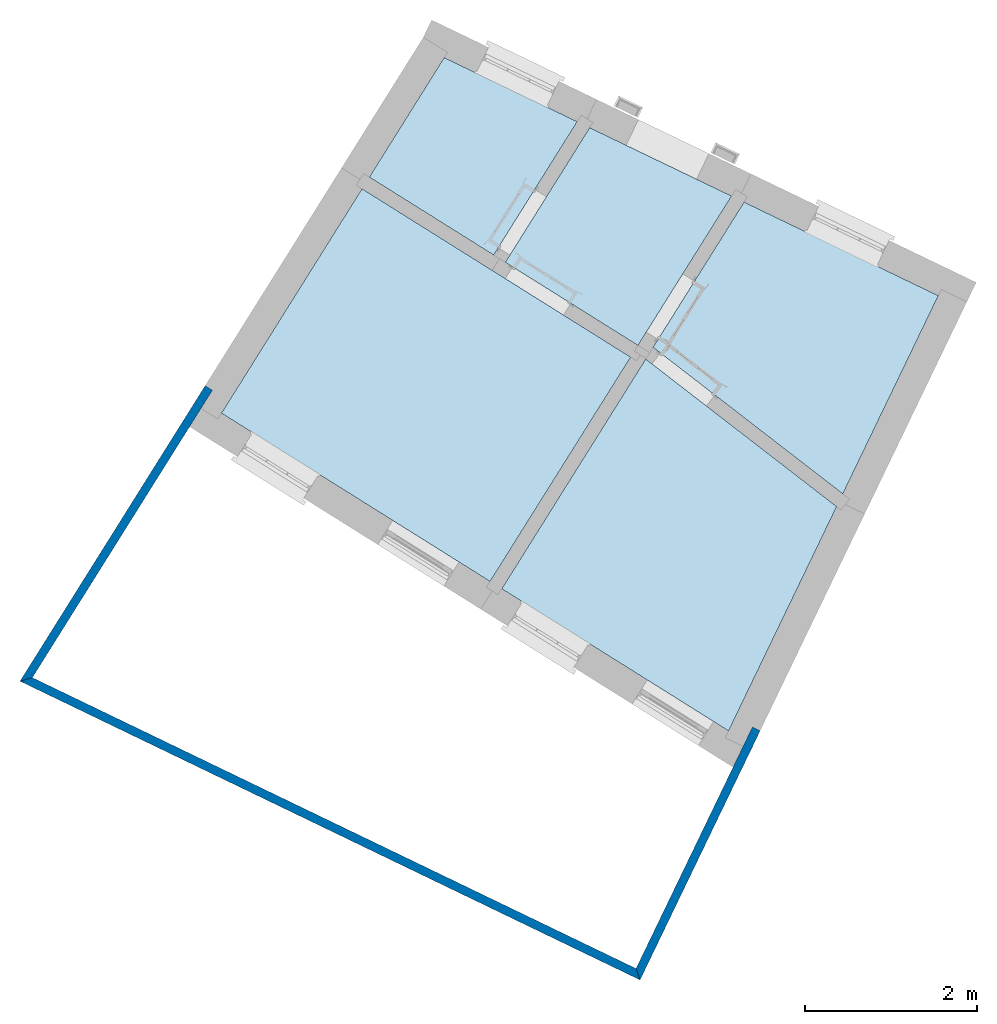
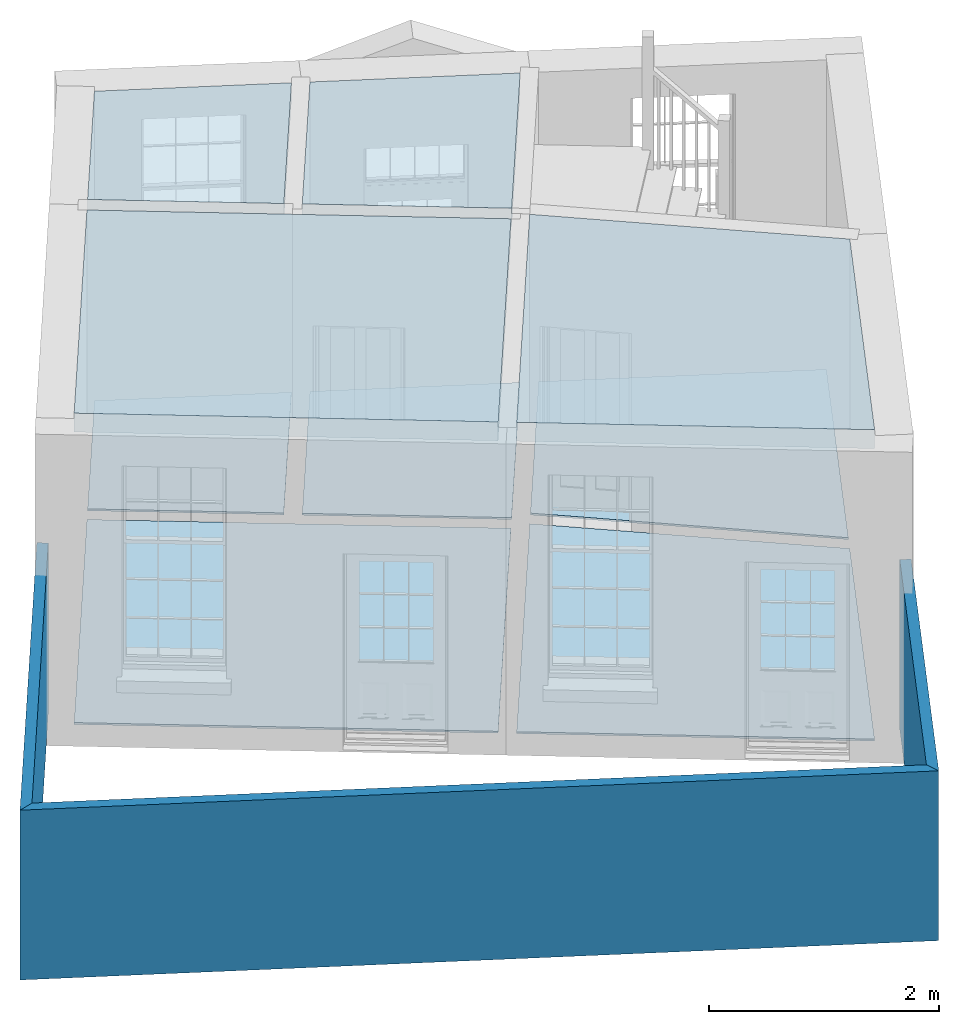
# One storey, part 1 of 6: 9 slabs, 3 walls.
"""IFC4 building model written with IfcOpenShell, lengths in metres."""

from ifc_helpers import new_model, si_unit, frame, origin_with_axes, place, context, subcontext, project, spatial, polyline, outline, extrude, material, layer, layer_set, layer_usage, type_object, element, save


model = new_model("IFC4")

# Units and contexts
model_context = context("Model", 3, world=origin_with_axes())
body_context = subcontext(model_context, "Body", "Model", "MODEL_VIEW")
ifc_project = project(units=[si_unit("PLANEANGLEUNIT", "RADIAN"), si_unit("MASSUNIT", "GRAM", prefix="KILO"), si_unit("FORCEUNIT", "NEWTON", prefix="KILO"), si_unit("LENGTHUNIT", "METRE"), si_unit("AREAUNIT", "SQUARE_METRE"), si_unit("VOLUMEUNIT", "CUBIC_METRE")], contexts=[model_context, model_context])

# Sites, building, storey
site_1_placement = place(None, origin_with_axes())
site_1 = spatial("IfcSite", under=ifc_project, at=site_1_placement, Name="Tamar")
site_2_placement = place(site_1_placement, origin_with_axes())
site_2 = spatial("IfcSite", under=site_1, at=site_2_placement, Name="Site plot-0", CompositionType="ELEMENT")
building_placement = place(None, origin_with_axes())
building = spatial("IfcBuilding", under=site_2, at=building_placement, Name="Building plot-0", CompositionType="ELEMENT")
storey_placement = place(None, frame((0.0, 0.0, 26.0), z_axis=(0.0, 0.0, 1.0), x_axis=(1.0, 0.0, 0.0)))
storey = spatial("IfcBuildingStorey", under=building, at=storey_placement, Name="plot-0 0", CompositionType="ELEMENT", Elevation=26.0)

# Slabs
slab_1_placement = place(storey_placement, frame((219.03369923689, 301.130418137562, 0.0)))
element("IfcSlab", 1, at=slab_1_placement, inside=storey, Name="My Slab", ObjectType="Slab", PredefinedType="FLOOR", context=body_context, shape_type="SweptSolid", body=[
    extrude(outline(polyline([(0.0, 0.0), (-1.05769112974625, -1.68811037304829), (1.14765961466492, -3.39175132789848), (2.2578113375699, -1.08802607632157), (0.0, 0.0)])), origin_with_axes(), (0.0, 0.0, 1.0), 0.02),
])
slab_2_placement = place(storey_placement, frame((218.888675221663, 301.20030436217, 3.1)))
element("IfcSlab", 2, at=slab_2_placement, inside=storey, Name="My Slab", ObjectType="Slab", PredefinedType="FLOOR", context=body_context, shape_type="SweptSolid", body=[
    extrude(outline(polyline([(0.0, 0.0), (-1.6492313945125, 0.794754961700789), (-2.62981481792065, -0.770288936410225), (-1.08792520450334, -1.7363649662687), (0.0, 0.0)])), origin_with_axes(), (0.0, 0.0, 1.0), 0.2),
])
slab_3_placement = place(storey_placement, frame((218.888675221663, 301.20030436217, 0.0)))
element("IfcSlab", 3, at=slab_3_placement, inside=storey, Name="My Slab", ObjectType="Slab", PredefinedType="FLOOR", context=body_context, shape_type="SweptSolid", body=[
    extrude(outline(polyline([(0.0, 0.0), (-1.6492313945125, 0.794754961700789), (-2.62981481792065, -0.770288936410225), (-1.08792520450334, -1.7363649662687), (0.0, 0.0)])), origin_with_axes(), (0.0, 0.0, 1.0), 0.02),
])
slab_4_placement = place(storey_placement, frame((217.890647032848, 299.306068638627, 3.1)))
element("IfcSlab", 4, at=slab_4_placement, inside=storey, Name="My Slab", ObjectType="Slab", PredefinedType="FLOOR", context=body_context, shape_type="SweptSolid", body=[
    extrude(outline(polyline([(0.0, 0.0), (-1.67313472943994, -2.67037891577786), (0.963199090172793, -4.3221825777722), (2.2197125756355, -1.71473551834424), (0.0, 0.0)])), origin_with_axes(), (0.0, 0.0, 1.0), 0.2),
])
slab_5_placement = place(storey_placement, frame((217.890647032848, 299.306068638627, 0.0)))
element("IfcSlab", 5, at=slab_5_placement, inside=storey, Name="My Slab", ObjectType="Slab", PredefinedType="FLOOR", context=body_context, shape_type="SweptSolid", body=[
    extrude(outline(polyline([(0.0, 0.0), (-1.67313472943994, -2.67037891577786), (0.963199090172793, -4.3221825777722), (2.2197125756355, -1.71473551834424), (0.0, 0.0)])), origin_with_axes(), (0.0, 0.0, 1.0), 0.02),
])
slab_6_placement = place(storey_placement, frame((214.593376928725, 301.284718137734, 3.1)))
element("IfcSlab", 6, at=slab_6_placement, inside=storey, Name="My Slab", ObjectType="Slab", PredefinedType="FLOOR", context=body_context, shape_type="SweptSolid", body=[
    extrude(outline(polyline([(0.0, 0.0), (-1.63387148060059, -2.60771345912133), (1.48855038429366, -4.56407719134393), (3.12242186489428, -1.95636373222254), (0.0, 0.0)])), origin_with_axes(), (0.0, 0.0, 1.0), 0.2),
])
slab_7_placement = place(storey_placement, frame((214.593376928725, 301.284718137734, 0.0)))
element("IfcSlab", 7, at=slab_7_placement, inside=storey, Name="My Slab", ObjectType="Slab", PredefinedType="FLOOR", context=body_context, shape_type="SweptSolid", body=[
    extrude(outline(polyline([(0.0, 0.0), (-1.63387148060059, -2.60771345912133), (1.48855038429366, -4.56407719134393), (3.12242186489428, -1.95636373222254), (0.0, 0.0)])), origin_with_axes(), (0.0, 0.0, 1.0), 0.02),
])
slab_8_placement = place(storey_placement, frame((217.094419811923, 302.064945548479, 3.1)))
element("IfcSlab", 8, at=slab_8_placement, inside=storey, Name="My Slab", ObjectType="Slab", PredefinedType="FLOOR", context=body_context, shape_type="SweptSolid", body=[
    extrude(outline(polyline([(0.0, 0.0), (-1.54554020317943, 0.744786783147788), (-2.41609165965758, -0.644642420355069), (-0.971144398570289, -1.54997889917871), (0.0, 0.0)])), origin_with_axes(), (0.0, 0.0, 1.0), 0.2),
])
slab_9_placement = place(storey_placement, frame((217.094419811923, 302.064945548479, 0.0)))
element("IfcSlab", 9, at=slab_9_placement, inside=storey, Name="My Slab", ObjectType="Slab", PredefinedType="FLOOR", context=body_context, shape_type="SweptSolid", body=[
    extrude(outline(polyline([(0.0, 0.0), (-1.54554020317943, 0.744786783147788), (-2.41609165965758, -0.644642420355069), (-0.971144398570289, -1.54997889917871), (0.0, 0.0)])), origin_with_axes(), (0.0, 0.0, 1.0), 0.02),
])

# Walls
ifc_material = material(Name="Masonry")
ifc_layer = layer(ifc_material, 0.1, ventilated=False)
ifc_layer_set = layer_set([ifc_layer], Name="fence_-0.15_0.25")
ifc_layer_usage = layer_usage(ifc_layer_set, "AXIS2", "POSITIVE", -0.25)
wall_type = type_object("IfcWallType", Name="fence_-0.15_0.25", PredefinedType="SOLIDWALL", material=ifc_layer_set)
wall_1_placement = place(storey_placement, frame((212.849237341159, 298.651687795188, 0.0), z_axis=(0.0, 0.0, 1.0), x_axis=(-0.530945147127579, -0.847406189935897, 0.0)))
element("IfcWall", 10, at=wall_1_placement, inside=storey, type_object=wall_type, material=ifc_layer_usage, Name="fence", context=body_context, shape_type="SweptSolid", body=[
    extrude(outline(polyline([(-0.250000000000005, -0.15000000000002), (-0.25000000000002, -0.250000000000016), (3.80310637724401, -0.249999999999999), (3.69137987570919, -0.150000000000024), (-0.250000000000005, -0.15000000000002)])), origin_with_axes(), (0.0, 0.0, 1.0), 1.8),
])
wall_2_placement = place(storey_placement, frame((210.97829807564, 295.665606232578, 0.0), z_axis=(0.0, 0.0, 1.0), x_axis=(0.900856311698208, -0.434117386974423, 0.0)))
element("IfcWall", 11, at=wall_2_placement, inside=storey, type_object=wall_type, material=ifc_layer_usage, Name="fence", context=body_context, shape_type="SweptSolid", body=[
    extrude(outline(polyline([(-0.167589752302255, -0.150000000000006), (-0.279316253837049, -0.25000000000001), (7.72068374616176, -0.249999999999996), (7.62068374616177, -0.149999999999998), (-0.167589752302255, -0.150000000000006)])), origin_with_axes(), (0.0, 0.0, 1.0), 1.8),
])
wall_3_placement = place(storey_placement, frame((217.708310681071, 292.422452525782, 0.0), z_axis=(0.0, 0.0, 1.0), x_axis=(0.434117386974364, 0.900856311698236, 0.0)))
element("IfcWall", 12, at=wall_3_placement, inside=storey, type_object=wall_type, material=ifc_layer_usage, Name="fence", context=body_context, shape_type="SweptSolid", body=[
    extrude(outline(polyline([(-0.150000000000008, -0.150000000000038), (-0.250000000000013, -0.250000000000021), (2.96539921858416, -0.249999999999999), (2.96539921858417, -0.150000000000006), (-0.150000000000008, -0.150000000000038)])), origin_with_axes(), (0.0, 0.0, 1.0), 1.8),
])

save(model, "model.ifc")
